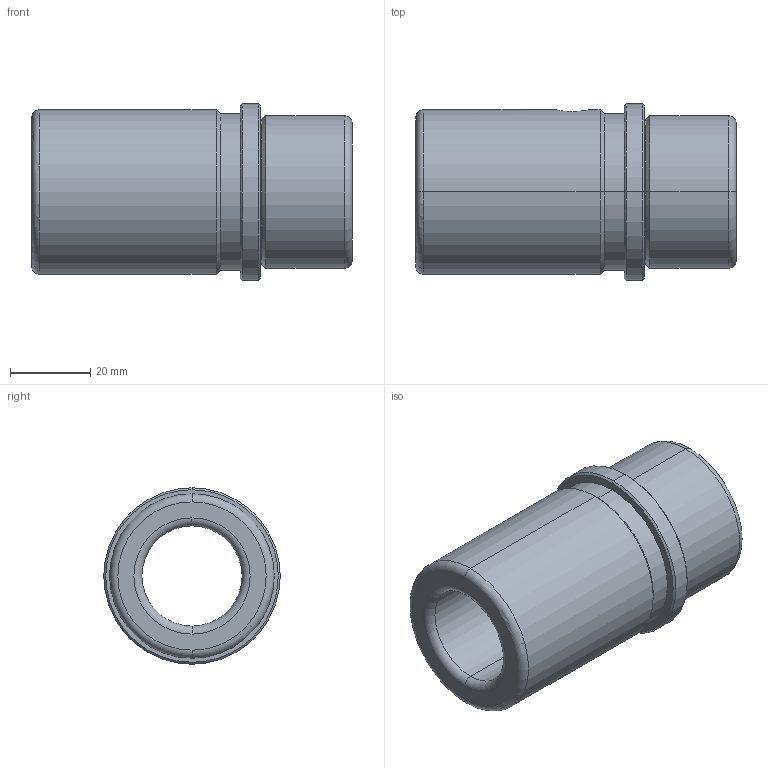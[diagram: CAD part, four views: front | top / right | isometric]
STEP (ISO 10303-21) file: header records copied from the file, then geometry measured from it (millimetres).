
FILE_DESCRIPTION(('CATIA V5 STEP Exchange'),'2;1');
FILE_NAME('C:\Users\Utente\Desktop\IO LAVORO\3D X SITO CF\X SITO\FAMO\FAMO-SF1-E25 x 80.stp','2021-01-06T17:02:30+00:00',('none'),('none'),'CATIA Version 5 Release 20 GA (IN-10)','CATIA V5 STEP AP203','none');
FILE_SCHEMA(('CONFIG_CONTROL_DESIGN'));
Length unit declared in the file: millimetre
Products named in the file (1): FAMO-SF1-E25 x 80
Bounding box: 80 x 44 x 44 mm (x, y, z)
Volume: 61217 mm3; surface area: 18617.5 mm2
Topology: 1 solids, 1 shells, 38 faces, 127 edges, 94 vertices
Faces by surface type: cylinder 15, cone 10, torus 8, plane 5
Entity records: 1646 total; most frequent: CARTESIAN_POINT 503, ORIENTED_EDGE 254, DIRECTION 182, EDGE_CURVE 127, AXIS2_PLACEMENT_3D 121, VERTEX_POINT 94, CIRCLE 82, EDGE_LOOP 45
